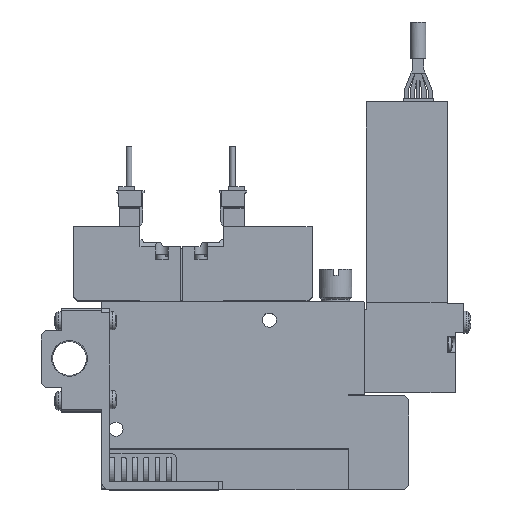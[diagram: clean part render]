
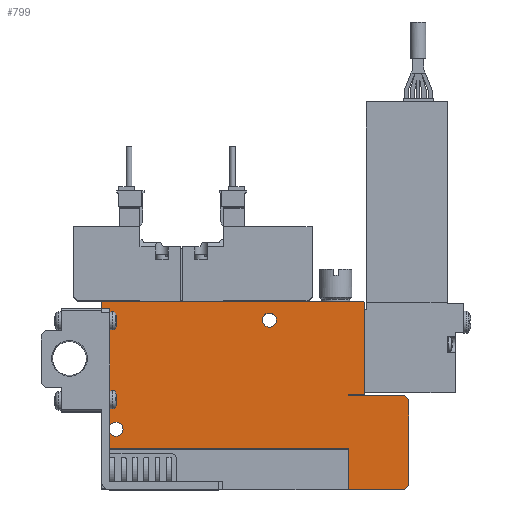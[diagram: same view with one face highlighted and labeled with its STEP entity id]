
A CAD part, top view. The second image highlights one B-rep face of the part: STEP entity #799.
In plain terms, the highlighted planar face has unit normal (0, 0, 1).
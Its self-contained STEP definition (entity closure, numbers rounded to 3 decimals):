
#799=ADVANCED_FACE('',(#1930,#1931,#1932),#1933,.F.);
#1930=FACE_OUTER_BOUND('',#3422,.T.);
#1931=FACE_BOUND('',#3423,.T.);
#1932=FACE_BOUND('',#3424,.T.);
#1933=PLANE('',#3425);
#3422=EDGE_LOOP('',(#7304,#7305,#7306,#7307,#7308,#7309,#7310,#7311,#7312,#7313,#7314,#7315,#7316,#7317));
#3423=EDGE_LOOP('',(#7318));
#3424=EDGE_LOOP('',(#7319));
#3425=AXIS2_PLACEMENT_3D('',#7320,#7321,#7322);
#7304=ORIENTED_EDGE('',*,*,#10554,.T.);
#7305=ORIENTED_EDGE('',*,*,#10344,.F.);
#7306=ORIENTED_EDGE('',*,*,#10555,.F.);
#7307=ORIENTED_EDGE('',*,*,#10556,.T.);
#7308=ORIENTED_EDGE('',*,*,#10557,.T.);
#7309=ORIENTED_EDGE('',*,*,#10558,.T.);
#7310=ORIENTED_EDGE('',*,*,#10386,.T.);
#7311=ORIENTED_EDGE('',*,*,#10559,.T.);
#7312=ORIENTED_EDGE('',*,*,#10434,.T.);
#7313=ORIENTED_EDGE('',*,*,#10560,.T.);
#7314=ORIENTED_EDGE('',*,*,#10407,.T.);
#7315=ORIENTED_EDGE('',*,*,#10553,.T.);
#7316=ORIENTED_EDGE('',*,*,#10550,.T.);
#7317=ORIENTED_EDGE('',*,*,#10561,.T.);
#7318=ORIENTED_EDGE('',*,*,#10529,.F.);
#7319=ORIENTED_EDGE('',*,*,#10562,.F.);
#7320=CARTESIAN_POINT('',(0.0,0.0,5.0));
#7321=DIRECTION('',(0.0,0.0,-1.0));
#7322=DIRECTION('',(0.0,-1.0,0.0));
#10344=EDGE_CURVE('',#12659,#12660,#12661,.T.);
#10386=EDGE_CURVE('',#12741,#12739,#12742,.T.);
#10407=EDGE_CURVE('',#12779,#12777,#12780,.T.);
#10434=EDGE_CURVE('',#12828,#12826,#12829,.T.);
#10529=EDGE_CURVE('',#12996,#12996,#12997,.T.);
#10550=EDGE_CURVE('',#13036,#13034,#13037,.T.);
#10553=EDGE_CURVE('',#12777,#13036,#13040,.T.);
#10554=EDGE_CURVE('',#13041,#12660,#13042,.T.);
#10555=EDGE_CURVE('',#13043,#12659,#13044,.T.);
#10556=EDGE_CURVE('',#13043,#13045,#13046,.T.);
#10557=EDGE_CURVE('',#13045,#13047,#13048,.T.);
#10558=EDGE_CURVE('',#13047,#12741,#13049,.T.);
#10559=EDGE_CURVE('',#12739,#12828,#13050,.T.);
#10560=EDGE_CURVE('',#12826,#12779,#13051,.T.);
#10561=EDGE_CURVE('',#13034,#13041,#13052,.T.);
#10562=EDGE_CURVE('',#13053,#13053,#13054,.T.);
#12659=VERTEX_POINT('',#16454);
#12660=VERTEX_POINT('',#16455);
#12661=LINE('',#16456,#16457);
#12739=VERTEX_POINT('',#16584);
#12741=VERTEX_POINT('',#16587);
#12742=LINE('',#16588,#16589);
#12777=VERTEX_POINT('',#16666);
#12779=VERTEX_POINT('',#16669);
#12780=LINE('',#16670,#16671);
#12826=VERTEX_POINT('',#16760);
#12828=VERTEX_POINT('',#16763);
#12829=LINE('',#16764,#16765);
#12996=VERTEX_POINT('',#17063);
#12997=CIRCLE('',#17064,1.75);
#13034=VERTEX_POINT('',#17132);
#13036=VERTEX_POINT('',#17135);
#13037=LINE('',#17136,#17137);
#13040=LINE('',#17142,#17143);
#13041=VERTEX_POINT('',#17144);
#13042=LINE('',#17145,#17146);
#13043=VERTEX_POINT('',#17147);
#13044=LINE('',#17148,#17149);
#13045=VERTEX_POINT('',#17150);
#13046=LINE('',#17151,#17152);
#13047=VERTEX_POINT('',#17153);
#13048=LINE('',#17154,#17155);
#13049=LINE('',#17156,#17157);
#13050=LINE('',#17158,#17159);
#13051=LINE('',#17160,#17161);
#13052=LINE('',#17162,#17163);
#13053=VERTEX_POINT('',#17164);
#13054=CIRCLE('',#17165,1.75);
#16454=CARTESIAN_POINT('',(61.1,10.1,5.0));
#16455=CARTESIAN_POINT('',(0.0,10.1,5.0));
#16456=CARTESIAN_POINT('',(61.1,10.1,5.0));
#16457=VECTOR('',#20297,1.0);
#16584=CARTESIAN_POINT('',(75.0,23.25,5.0));
#16587=CARTESIAN_POINT('',(76.0,22.25,5.0));
#16588=CARTESIAN_POINT('',(76.0,22.25,5.0));
#16589=VECTOR('',#20353,1.0);
#16666=CARTESIAN_POINT('',(65.0,46.4,5.0));
#16669=CARTESIAN_POINT('',(65.0,23.5,5.0));
#16670=CARTESIAN_POINT('',(65.0,23.5,5.0));
#16671=VECTOR('',#20377,1.0);
#16760=CARTESIAN_POINT('',(61.0,23.5,5.0));
#16763=CARTESIAN_POINT('',(61.0,23.25,5.0));
#16764=CARTESIAN_POINT('',(61.0,23.25,5.0));
#16765=VECTOR('',#20417,1.0);
#17063=CARTESIAN_POINT('',(5.25,15.0,5.0));
#17064=AXIS2_PLACEMENT_3D('',#20549,#20550,#20551);
#17132=CARTESIAN_POINT('',(0.2,46.6,5.0));
#17135=CARTESIAN_POINT('',(64.8,46.6,5.0));
#17136=CARTESIAN_POINT('',(64.8,46.6,5.0));
#17137=VECTOR('',#20580,1.0);
#17142=CARTESIAN_POINT('',(65.0,46.4,5.0));
#17143=VECTOR('',#20583,1.0);
#17144=CARTESIAN_POINT('',(0.0,46.4,5.0));
#17145=CARTESIAN_POINT('',(0.0,46.4,5.0));
#17146=VECTOR('',#20584,1.0);
#17147=CARTESIAN_POINT('',(61.1,0.0,5.0));
#17148=CARTESIAN_POINT('',(61.1,0.0,5.0));
#17149=VECTOR('',#20585,1.0);
#17150=CARTESIAN_POINT('',(75.0,0.0,5.0));
#17151=CARTESIAN_POINT('',(0.0,0.0,5.0));
#17152=VECTOR('',#20586,1.0);
#17153=CARTESIAN_POINT('',(76.0,1.0,5.0));
#17154=CARTESIAN_POINT('',(75.0,0.0,5.0));
#17155=VECTOR('',#20587,1.0);
#17156=CARTESIAN_POINT('',(76.0,1.0,5.0));
#17157=VECTOR('',#20588,1.0);
#17158=CARTESIAN_POINT('',(75.0,23.25,5.0));
#17159=VECTOR('',#20589,1.0);
#17160=CARTESIAN_POINT('',(61.0,23.5,5.0));
#17161=VECTOR('',#20590,1.0);
#17162=CARTESIAN_POINT('',(0.2,46.6,5.0));
#17163=VECTOR('',#20591,1.0);
#17164=CARTESIAN_POINT('',(43.25,42.0,5.0));
#17165=AXIS2_PLACEMENT_3D('',#20592,#20593,#20594);
#20297=DIRECTION('',(-1.0,0.0,0.0));
#20353=DIRECTION('',(-0.707,0.707,0.0));
#20377=DIRECTION('',(0.0,1.0,0.0));
#20417=DIRECTION('',(0.0,1.0,0.0));
#20549=CARTESIAN_POINT('',(3.5,15.0,5.0));
#20550=DIRECTION('',(0.0,0.0,1.0));
#20551=DIRECTION('',(1.0,0.0,0.0));
#20580=DIRECTION('',(-1.0,0.0,0.0));
#20583=DIRECTION('',(-0.707,0.707,0.0));
#20584=DIRECTION('',(0.0,-1.0,0.0));
#20585=DIRECTION('',(0.0,1.0,0.0));
#20586=DIRECTION('',(1.0,0.0,0.0));
#20587=DIRECTION('',(0.707,0.707,0.0));
#20588=DIRECTION('',(0.0,1.0,0.0));
#20589=DIRECTION('',(-1.0,0.0,0.0));
#20590=DIRECTION('',(1.0,0.,0.0));
#20591=DIRECTION('',(-0.707,-0.707,0.0));
#20592=CARTESIAN_POINT('',(41.5,42.0,5.0));
#20593=DIRECTION('',(0.0,0.0,1.0));
#20594=DIRECTION('',(1.0,0.0,0.0));
